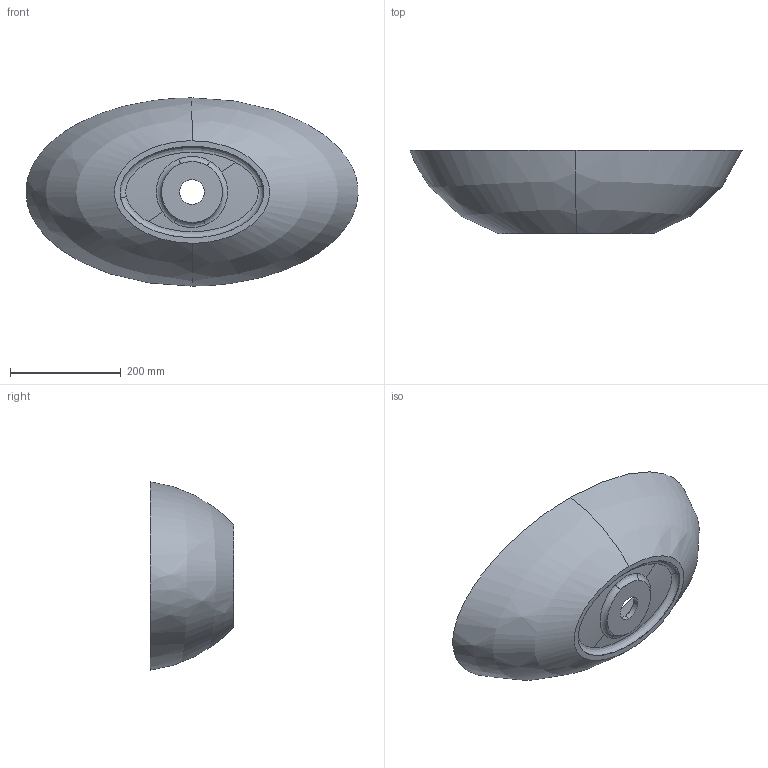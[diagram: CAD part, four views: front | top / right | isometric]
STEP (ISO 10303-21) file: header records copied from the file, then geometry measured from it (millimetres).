
FILE_DESCRIPTION (( 'STEP AP203' ), '1' );
FILE_NAME ('v37.STEP', '2016-10-15T02:16:00', ( '' ), ( '' ), 'SwSTEP 2.0', 'SolidWorks 2016', '' );
FILE_SCHEMA (( 'CONFIG_CONTROL_DESIGN' ));
Length unit declared in the file: millimetre
Products named in the file (1): v37
Bounding box: 599.65 x 150 x 340 mm (x, y, z)
Volume: 3074200.7 mm3; surface area: 527945.9 mm2
Topology: 1 solids, 1 shells, 28 faces, 69 edges, 44 vertices
Faces by surface type: bspline 18, cylinder 5, plane 3, cone 2
Entity records: 8720 total; most frequent: CARTESIAN_POINT 8103, ORIENTED_EDGE 138, DIRECTION 71, EDGE_CURVE 69, VERTEX_POINT 44, B_SPLINE_CURVE_WITH_KNOTS 37, AXIS2_PLACEMENT_3D 32, EDGE_LOOP 31
